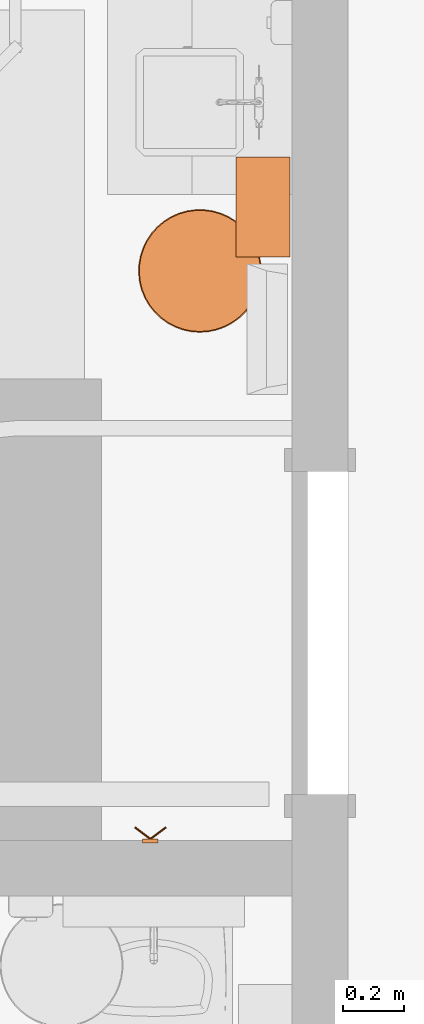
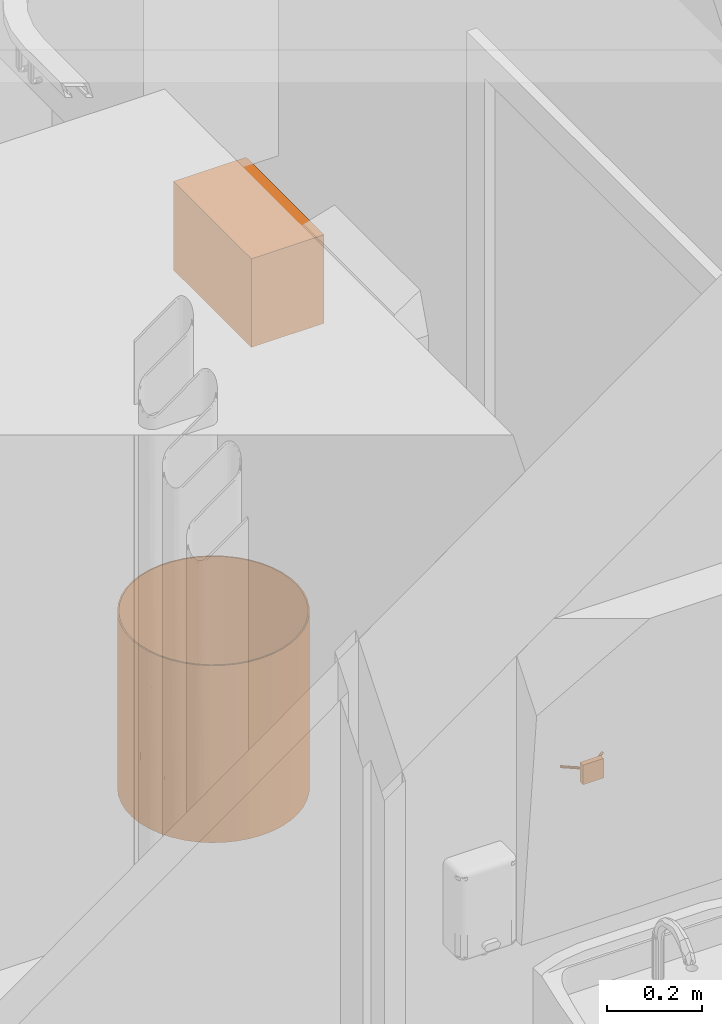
# One storey, part 116 of 142: 3 proxies.
"""IFC2X3 building model written with IfcOpenShell, lengths in feet."""

from ifc_helpers import new_model, entity, si_unit, converted_unit, derived_unit, direction, frame, frame_2d, origin, origin_2d_with_axis, place, context, subcontext, project, spatial, rectangle, circle, hollow_circle, extrude, source, transform, mapped, type_object, type_shapes, element, save


model = new_model("IFC2X3")

# Units and contexts
model_context = context("Model", 3, precision=0.0001, world=origin(), true_north=direction((6.12303176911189e-17, 1.0)))
body_context = subcontext(model_context, "Body", "Model", "MODEL_VIEW")
ifc_project = project(units=[converted_unit("LENGTHUNIT", "FOOT", entity("IfcRatioMeasure", 0.3048), si_unit("LENGTHUNIT", "METRE"), dimensions=[1, 0, 0, 0, 0, 0, 0]), converted_unit("AREAUNIT", "SQUARE FOOT", entity("IfcRatioMeasure", 0.09290304), si_unit("AREAUNIT", "SQUARE_METRE"), dimensions=[2, 0, 0, 0, 0, 0, 0]), converted_unit("VOLUMEUNIT", "CUBIC FOOT", entity("IfcRatioMeasure", 0.028316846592), si_unit("VOLUMEUNIT", "CUBIC_METRE"), dimensions=[3, 0, 0, 0, 0, 0, 0]), converted_unit("PLANEANGLEUNIT", "DEGREE", entity("IfcRatioMeasure", 0.0174532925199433), si_unit("PLANEANGLEUNIT", "RADIAN"), dimensions=[0, 0, 0, 0, 0, 0, 0]), si_unit("MASSUNIT", "GRAM", prefix="KILO"), derived_unit("MASSDENSITYUNIT", [(si_unit("MASSUNIT", "GRAM", prefix="KILO"), 1), (si_unit("LENGTHUNIT", "METRE"), -3)]), si_unit("TIMEUNIT", "SECOND"), si_unit("FREQUENCYUNIT", "HERTZ"), si_unit("THERMODYNAMICTEMPERATUREUNIT", "DEGREE_CELSIUS"), derived_unit("THERMALTRANSMITTANCEUNIT", [(si_unit("MASSUNIT", "GRAM", prefix="KILO"), 1), (si_unit("THERMODYNAMICTEMPERATUREUNIT", "KELVIN"), -1), (si_unit("TIMEUNIT", "SECOND"), -3)]), derived_unit("VOLUMETRICFLOWRATEUNIT", [(si_unit("LENGTHUNIT", "METRE"), 3), (si_unit("TIMEUNIT", "SECOND"), -1)]), si_unit("ELECTRICCURRENTUNIT", "AMPERE"), si_unit("ELECTRICVOLTAGEUNIT", "VOLT"), si_unit("POWERUNIT", "WATT"), si_unit("FORCEUNIT", "NEWTON"), si_unit("ILLUMINANCEUNIT", "LUX"), si_unit("LUMINOUSFLUXUNIT", "LUMEN"), si_unit("LUMINOUSINTENSITYUNIT", "CANDELA"), derived_unit("USERDEFINED", [(si_unit("MASSUNIT", "GRAM", prefix="KILO"), -1), (si_unit("LENGTHUNIT", "METRE"), -2), (si_unit("TIMEUNIT", "SECOND"), 3), (si_unit("LUMINOUSFLUXUNIT", "LUMEN"), 1)]), derived_unit("LINEARVELOCITYUNIT", [(si_unit("LENGTHUNIT", "METRE"), 1), (si_unit("TIMEUNIT", "SECOND"), -1)]), si_unit("PRESSUREUNIT", "PASCAL"), derived_unit("USERDEFINED", [(si_unit("LENGTHUNIT", "METRE"), -2), (si_unit("MASSUNIT", "GRAM", prefix="KILO"), 1), (si_unit("TIMEUNIT", "SECOND"), -2)])], contexts=[model_context])

# Site, building, storey, space
site_placement = place(None, origin())
site = spatial("IfcSite", under=ifc_project, at=site_placement, Name="Default", CompositionType="ELEMENT")
building_placement = place(site_placement, origin())
building = spatial("IfcBuilding", under=site, at=building_placement, Name="OUTPATIENT / PACT CLINIC (Ch. 265)", CompositionType="ELEMENT")
storey_placement = place(building_placement, origin())
storey = spatial("IfcBuildingStorey", under=building, at=storey_placement, Name="LEVEL 1", CompositionType="ELEMENT", Elevation=0.0)
space_placement = place(storey_placement, origin())
space = spatial("IfcSpace", under=storey, at=space_placement, Name="EXW01", CompositionType="ELEMENT", InteriorOrExteriorSpace="INTERNAL")

# Proxies
building_element_proxy_type_1 = type_object("IfcBuildingElementProxyType", Name="F2000 - Basket, Wastepaper", PredefinedType="NOTDEFINED")
shared_shape_1 = source(origin(), body_context, "Body", "SweptSolid", [
    extrude(circle(Radius=0.666666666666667, at=frame_2d((0.0, -1.07702971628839e-15), x_axis=(1.0, 0.0))), origin(), (0.0, 0.0, 1.0), 0.0104166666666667),
    extrude(hollow_circle(Radius=0.666666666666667, WallThickness=0.0104166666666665, at=frame_2d((0.0, -1.07702971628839e-15), x_axis=(1.0, 0.0))), frame((0.0, 0.0, 0.0104166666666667)), (0.0, 0.0, 1.0), 1.48958333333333),
])
type_shapes(building_element_proxy_type_1, [shared_shape_1])
proxy_1_placement = place(space_placement, frame((446.754977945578, -925.268402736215, 0.0), z_axis=(0.0, 0.0, 1.0), x_axis=(0.0, -1.0, 0.0)))
element("IfcBuildingElementProxy", 1, at=proxy_1_placement, inside=space, type_object=building_element_proxy_type_1, Name="F2000 - Basket, Wastepaper:F2000 - Basket, Wastepaper", ObjectType="F2000 - Basket, Wastepaper", context=body_context, shape_type="MappedRepresentation", body=[
    mapped(shared_shape_1, transform((0.0, 0.0, 0.0), scale=1.0)),
])
building_element_proxy_type_2 = type_object("IfcBuildingElementProxyType", Name="A5080 - Dispenser, Paper Towel", PredefinedType="NOTDEFINED")
shared_shape_2 = source(origin(), body_context, "Body", "SweptSolid", [
    extrude(rectangle(XDim=0.58333333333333, YDim=1.08333333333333, at=frame_2d((9.99200722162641e-16, 0.0), x_axis=(1.0, 0.0))), frame((0.0, -0.291666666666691, 0.0), z_axis=(0.0, 0.0, 1.0), x_axis=(0.0, 1.0, 0.0)), (0.0, 0.0, 1.0), 0.75),
])
type_shapes(building_element_proxy_type_2, [shared_shape_2])
proxy_2_placement = place(space_placement, frame((447.728936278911, -924.576758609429, 3.49999999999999), z_axis=(0.0, 0.0, 1.0), x_axis=(0.0, -1.0, 0.0)))
element("IfcBuildingElementProxy", 2, at=proxy_2_placement, inside=space, type_object=building_element_proxy_type_2, Name="A5080 - Dispenser, Paper Towel:A5080 - Dispenser, Paper Towel", ObjectType="A5080 - Dispenser, Paper Towel", context=body_context, shape_type="MappedRepresentation", body=[
    mapped(shared_shape_2, transform((0.0, 0.0, 0.0), scale=1.0)),
])
building_element_proxy_type_3 = type_object("IfcBuildingElementProxyType", Name="A5145 - Hook, Garment, Double", PredefinedType="NOTDEFINED")
shared_shape_3 = source(origin(), body_context, "Body", "SweptSolid", [
    extrude(circle(Radius=0.0105952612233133, at=frame_2d((-1.64551454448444e-31, -4.16333634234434e-17), x_axis=(1.0, 0.0))), frame((-0.169086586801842, -0.168481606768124, 0.0833333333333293), z_axis=(0.799999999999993, 0.60000000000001, 0.0), x_axis=(0.60000000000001, -0.799999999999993, 0.0)), (0.0, 0.0, 1.0), 0.211358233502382),
    extrude(circle(Radius=0.0105952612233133, at=frame_2d((5.2041704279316e-19, 2.77555756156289e-17), x_axis=(1.0, 0.0))), frame((0.0, -0.0416666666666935, 0.083333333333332), z_axis=(0.799999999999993, -0.60000000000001, 0.0), x_axis=(-0.60000000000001, -0.799999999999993, 0.0)), (0.0, 0.0, 1.0), 0.211358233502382),
    extrude(rectangle(XDim=0.0416666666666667, YDim=0.166666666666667, at=origin_2d_with_axis()), frame((0.0, -0.0208333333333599, 0.0), z_axis=(0.0, 0.0, 1.0), x_axis=(0.0, 1.0, 0.0)), (0.0, 0.0, 1.0), 0.166666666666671),
])
type_shapes(building_element_proxy_type_3, [shared_shape_3])
proxy_3_placement = place(space_placement, frame((446.218519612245, -931.467383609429, 4.0), z_axis=(0.0, 0.0, 1.0), x_axis=(-1.0, 0.0, 0.0)))
element("IfcBuildingElementProxy", 3, at=proxy_3_placement, inside=space, type_object=building_element_proxy_type_3, Name="A5145 - Hook, Garment, Double:A5145 - Hook, Garment, Double", ObjectType="A5145 - Hook, Garment, Double", context=body_context, shape_type="MappedRepresentation", body=[
    mapped(shared_shape_3, transform((0.0, 0.0, 0.0), scale=1.0)),
])

save(model, "model.ifc")
